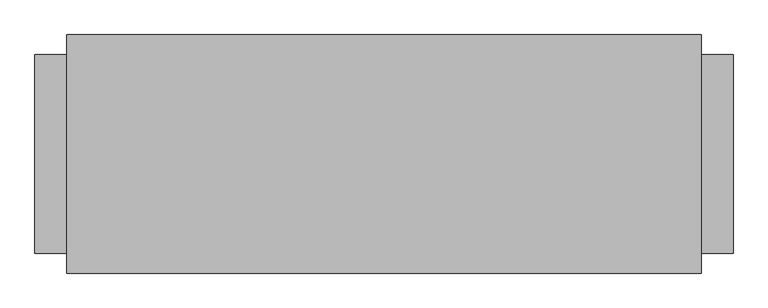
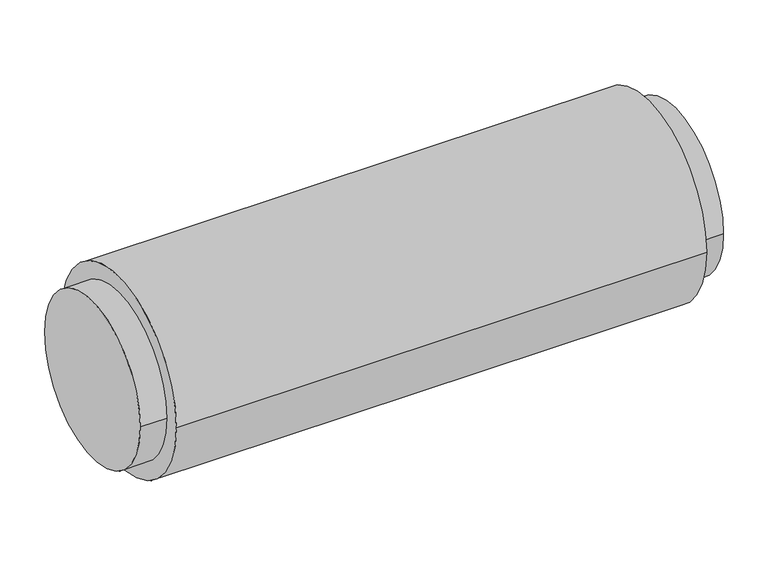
"""IFC4 building model written with IfcOpenShell, lengths in millimetres: damper geometry, VE-Tłumik_Akustyczny-ParaForma-Harmann-FLEXITEC : 315-1000."""

from ifc_helpers import new_model, si_unit, point, frame, origin, origin_2d, place, context, project, spatial, circle_curve, trimmed, segment, composite_curve, outline, extrude, source, transform, mapped, element, save


def damper_bc44c6f4(model_context):
    return source(origin(), model_context, "Body", "SweptSolid", [
        extrude(outline(composite_curve([segment(trimmed(circle_curve(origin_2d(), 156.5), [point((-156.5, 0.0))], [point((156.5, 0.0))], False, "CARTESIAN"), True, "CONTINUOUS"), segment(trimmed(circle_curve(origin_2d(), 156.5), [point((156.5, 0.0))], [point((-156.5, 0.0))], False, "CARTESIAN"), True, "CONTINUOUS")], self_intersect=False)), frame((500.0, 0.0, 0.0), z_axis=(1.0, 0.0, 0.0), x_axis=(0.0, 1.0, 0.0)), (0.0, 0.0, 1.0), 50.0),
        extrude(outline(composite_curve([segment(trimmed(circle_curve(origin_2d(), 156.5), [point((-156.5, 0.0))], [point((156.5, 0.0))], False, "CARTESIAN"), True, "CONTINUOUS"), segment(trimmed(circle_curve(origin_2d(), 156.5), [point((156.5, 0.0))], [point((-156.5, 0.0))], False, "CARTESIAN"), True, "CONTINUOUS")], self_intersect=False)), frame((-550.0, 0.0, 0.0), z_axis=(1.0, 0.0, 0.0), x_axis=(0.0, 1.0, 0.0)), (0.0, 0.0, 1.0), 50.0),
        extrude(outline(composite_curve([segment(trimmed(circle_curve(origin_2d(), 187.95), [point((-187.95, 0.0))], [point((187.95, 0.0))], False, "CARTESIAN"), True, "CONTINUOUS"), segment(trimmed(circle_curve(origin_2d(), 187.95), [point((187.95, 0.0))], [point((-187.95, 0.0))], False, "CARTESIAN"), True, "CONTINUOUS")], self_intersect=False)), frame((-500.0, 0.0, 0.0), z_axis=(1.0, 0.0, 0.0), x_axis=(0.0, 1.0, 0.0)), (0.0, 0.0, 1.0), 1000.0),
    ])


if __name__ == "__main__":
    model = new_model("IFC4")
    model_context = context("Model", 3, world=origin())
    ifc_project = project(units=[si_unit("LENGTHUNIT", "METRE", prefix="MILLI")], contexts=[model_context])
    site = spatial("IfcSite", under=ifc_project)
    building = spatial("IfcBuilding", under=site)
    placement = place(None, origin())
    damper_shape = damper_bc44c6f4(model_context)
    element("IfcDamper", 1, ObjectType="VE-Tłumik_Akustyczny-ParaForma-Harmann-FLEXITEC : 315-1000", at=placement, inside=building, context=model_context, shape_type="MappedRepresentation", body=[
        mapped(damper_shape, transform((0.0, 0.0, 0.0), x_axis=(1.0, 0.0, 0.0), y_axis=(0.0, 1.0, 0.0), z_axis=(0.0, 0.0, 1.0))),
    ])
    save(model, "model.ifc")
